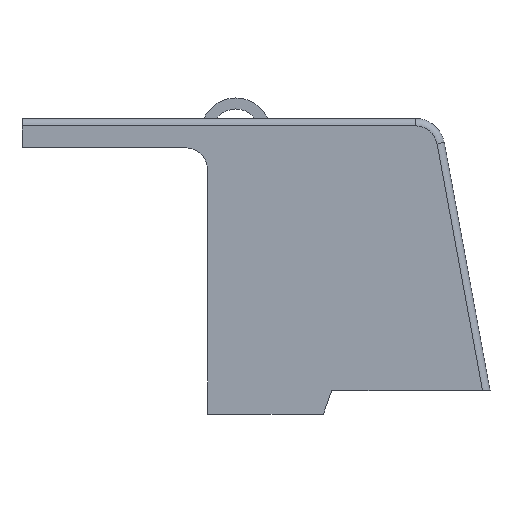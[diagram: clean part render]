
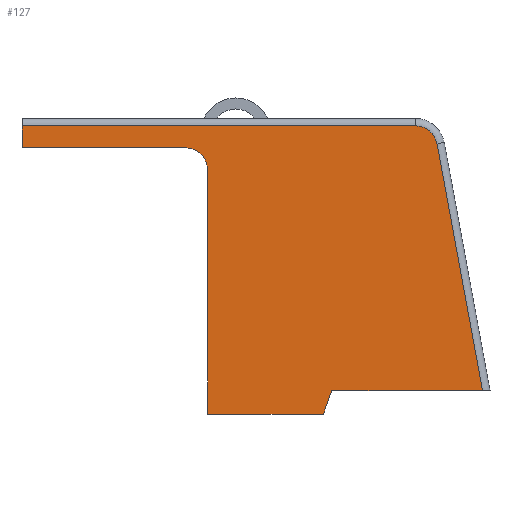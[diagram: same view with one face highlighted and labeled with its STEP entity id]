
A CAD part, front view. The second image highlights one B-rep face of the part: STEP entity #127.
In plain terms, the highlighted planar face has unit normal (0, -1, 0).
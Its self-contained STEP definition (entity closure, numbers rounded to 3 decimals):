
#20 = CARTESIAN_POINT ( 'NONE',  ( 54.769, 163.375, 42.474 ) ) ;
#31 = VECTOR ( 'NONE', #1726, 1000. ) ;
#41 = LINE ( 'NONE', #2633, #1673 ) ;
#116 = CARTESIAN_POINT ( 'NONE',  ( 106.569, 163.375, -307.916 ) ) ;
#127 = ADVANCED_FACE ( 'NONE', ( #2683 ), #2069, .F. ) ;
#159 = DIRECTION ( 'NONE',  ( -1., 0., 0. ) ) ;
#194 = ORIENTED_EDGE ( 'NONE', *, *, #1613, .F. ) ;
#199 = CARTESIAN_POINT ( 'NONE',  ( 56.769, 163.375, 9.174 ) ) ;
#207 = ORIENTED_EDGE ( 'NONE', *, *, #929, .T. ) ;
#212 = CARTESIAN_POINT ( 'NONE',  ( 54.769, 163.375, 9.174 ) ) ;
#224 = VECTOR ( 'NONE', #159, 1000. ) ;
#239 = CARTESIAN_POINT ( 'NONE',  ( 83.112, 163.375, 48.474 ) ) ;
#254 = ORIENTED_EDGE ( 'NONE', *, *, #1914, .F. ) ;
#272 = ORIENTED_EDGE ( 'NONE', *, *, #762, .T. ) ;
#312 = EDGE_CURVE ( 'NONE', #2516, #350, #2139, .T. ) ;
#326 = CARTESIAN_POINT ( 'NONE',  ( 94.469, 163.375, 45.474 ) ) ;
#347 = DIRECTION ( 'NONE',  ( -1., 0., 0. ) ) ;
#350 = VERTEX_POINT ( 'NONE', #212 ) ;
#365 = CIRCLE ( 'NONE', #2207, 3. ) ;
#379 = ORIENTED_EDGE ( 'NONE', *, *, #312, .F. ) ;
#436 = DIRECTION ( 'NONE',  ( -1., 0., 0. ) ) ;
#468 = VERTEX_POINT ( 'NONE', #1621 ) ;
#617 = CARTESIAN_POINT ( 'NONE',  ( 86.063, 163.375, 46.018 ) ) ;
#672 = CIRCLE ( 'NONE', #1717, 3. ) ;
#695 = CARTESIAN_POINT ( 'NONE',  ( 29.469, 163.375, 48.474 ) ) ;
#751 = ORIENTED_EDGE ( 'NONE', *, *, #1752, .T. ) ;
#755 = ORIENTED_EDGE ( 'NONE', *, *, #869, .T. ) ;
#762 = EDGE_CURVE ( 'NONE', #2526, #2474, #41, .T. ) ;
#766 = VECTOR ( 'NONE', #957, 1000. ) ;
#768 = ORIENTED_EDGE ( 'NONE', *, *, #959, .T. ) ;
#795 = VERTEX_POINT ( 'NONE', #239 ) ;
#825 = DIRECTION ( 'NONE',  ( -0.342, 0., -0.94 ) ) ;
#869 = EDGE_CURVE ( 'NONE', #2474, #1466, #2512, .T. ) ;
#893 = DIRECTION ( 'NONE',  ( 0., 0., 1. ) ) ;
#894 = CARTESIAN_POINT ( 'NONE',  ( 71.72, 163.375, 12.334 ) ) ;
#903 = LINE ( 'NONE', #1541, #31 ) ;
#929 = EDGE_CURVE ( 'NONE', #1466, #795, #672, .T. ) ;
#957 = DIRECTION ( 'NONE',  ( -0.181, 0., 0.983 ) ) ;
#959 = EDGE_CURVE ( 'NONE', #1701, #2523, #365, .T. ) ;
#1110 = EDGE_CURVE ( 'NONE', #350, #2523, #1703, .T. ) ;
#1155 = DIRECTION ( 'NONE',  ( 0., 1., 0. ) ) ;
#1171 = LINE ( 'NONE', #326, #2057 ) ;
#1176 = EDGE_LOOP ( 'NONE', ( #272, #755, #207, #2731, #194, #751, #768, #2218, #379, #254 ) ) ;
#1323 = DIRECTION ( 'NONE',  ( 1., 0., 0. ) ) ;
#1383 = DIRECTION ( 'NONE',  ( -1., 0., 0. ) ) ;
#1389 = CARTESIAN_POINT ( 'NONE',  ( 149.787, 163.375, -299.58 ) ) ;
#1405 = CARTESIAN_POINT ( 'NONE',  ( 51.769, 163.375, 42.474 ) ) ;
#1417 = CARTESIAN_POINT ( 'NONE',  ( 83.112, 163.375, 45.474 ) ) ;
#1466 = VERTEX_POINT ( 'NONE', #617 ) ;
#1532 = CARTESIAN_POINT ( 'NONE',  ( 70.57, 163.375, 9.174 ) ) ;
#1541 = CARTESIAN_POINT ( 'NONE',  ( 29.469, 163.375, 49.474 ) ) ;
#1543 = EDGE_CURVE ( 'NONE', #795, #2286, #2378, .T. ) ;
#1613 = EDGE_CURVE ( 'NONE', #468, #2286, #903, .T. ) ;
#1621 = CARTESIAN_POINT ( 'NONE',  ( 29.469, 163.375, 45.474 ) ) ;
#1652 = VECTOR ( 'NONE', #825, 1000. ) ;
#1673 = VECTOR ( 'NONE', #1323, 1000. ) ;
#1701 = VERTEX_POINT ( 'NONE', #2007 ) ;
#1703 = LINE ( 'NONE', #2566, #1807 ) ;
#1710 = LINE ( 'NONE', #2572, #1652 ) ;
#1717 = AXIS2_PLACEMENT_3D ( 'NONE', #1417, #2499, #347 ) ;
#1726 = DIRECTION ( 'NONE',  ( 0., 0., 1. ) ) ;
#1752 = EDGE_CURVE ( 'NONE', #468, #1701, #1171, .T. ) ;
#1807 = VECTOR ( 'NONE', #893, 1000. ) ;
#1848 = DIRECTION ( 'NONE',  ( -1., 0., 0. ) ) ;
#1864 = CARTESIAN_POINT ( 'NONE',  ( 92.274, 163.375, 12.334 ) ) ;
#1914 = EDGE_CURVE ( 'NONE', #2526, #2516, #1710, .T. ) ;
#2007 = CARTESIAN_POINT ( 'NONE',  ( 51.769, 163.375, 45.474 ) ) ;
#2057 = VECTOR ( 'NONE', #2507, 1000. ) ;
#2069 = PLANE ( 'NONE',  #2255 ) ;
#2139 = LINE ( 'NONE', #199, #224 ) ;
#2207 = AXIS2_PLACEMENT_3D ( 'NONE', #1405, #2268, #1848 ) ;
#2218 = ORIENTED_EDGE ( 'NONE', *, *, #1110, .F. ) ;
#2255 = AXIS2_PLACEMENT_3D ( 'NONE', #116, #1155, #1383 ) ;
#2268 = DIRECTION ( 'NONE',  ( 0., 1., 0. ) ) ;
#2286 = VERTEX_POINT ( 'NONE', #695 ) ;
#2378 = LINE ( 'NONE', #2615, #2454 ) ;
#2454 = VECTOR ( 'NONE', #436, 1000. ) ;
#2474 = VERTEX_POINT ( 'NONE', #1864 ) ;
#2499 = DIRECTION ( 'NONE',  ( 0., -1., 0. ) ) ;
#2507 = DIRECTION ( 'NONE',  ( 1., 0., 0. ) ) ;
#2512 = LINE ( 'NONE', #1389, #766 ) ;
#2516 = VERTEX_POINT ( 'NONE', #1532 ) ;
#2523 = VERTEX_POINT ( 'NONE', #20 ) ;
#2526 = VERTEX_POINT ( 'NONE', #894 ) ;
#2566 = CARTESIAN_POINT ( 'NONE',  ( 54.769, 163.375, 40.474 ) ) ;
#2572 = CARTESIAN_POINT ( 'NONE',  ( 70.643, 163.375, 9.374 ) ) ;
#2615 = CARTESIAN_POINT ( 'NONE',  ( 106.569, 163.375, 48.474 ) ) ;
#2633 = CARTESIAN_POINT ( 'NONE',  ( 106.569, 163.375, 12.334 ) ) ;
#2683 = FACE_OUTER_BOUND ( 'NONE', #1176, .T. ) ;
#2731 = ORIENTED_EDGE ( 'NONE', *, *, #1543, .T. ) ;
